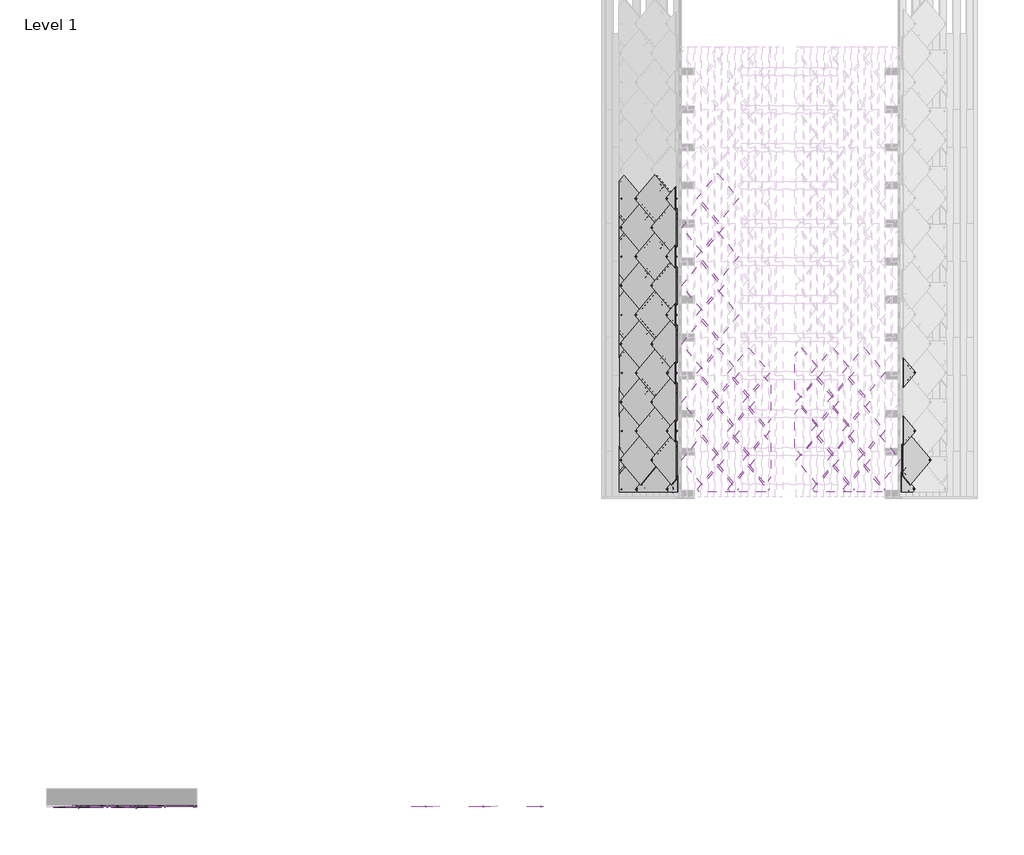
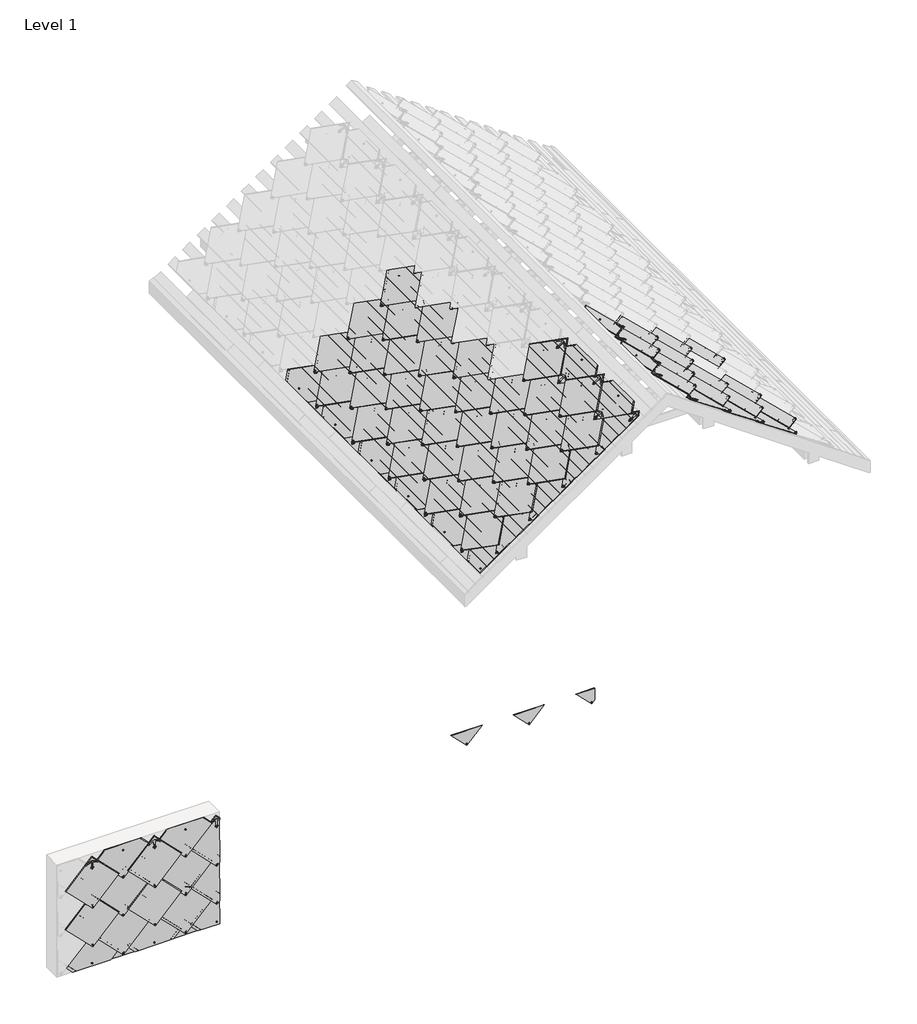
# One storey, part 4 of 6: 88 proxies.
"""IFC4 building model written with IfcOpenShell, lengths in millimetres."""

from ifc_helpers import new_model, si_unit, origin, place, context, project, spatial, transform, mapped, element, save
from components import generic_models_2e27a9fd, corner_bottom_big_right_black_b907a22d, corner_top_small_right_black_2f2f0a71, roofing_panels_sunstyle_tile_non_pv_shingle_non_pv_shingle_be952c39, roofing_panels_sunstyle_tile_shingle_bottom_shingle_bottom_4eb983e8, roofing_panels_sunstyle_tile_shingle_bottom_small_shingle_761d3557, roofing_panels_sunstyle_tile_shingle_left_shingle_left_black_59aad734, roofing_panels_sunstyle_tile_shingle_right_shingle_right_37b1760f, roofing_panels_sunstyle_tile_shingle_top_shingle_top_black_4c6098d4, roofing_panels_sunstyle_tile_shingle_top_small_shingle_top_a40e7fca

model = new_model("IFC4")

# Units and contexts
model_context = context("Model", 3, world=origin())
ifc_project = project(units=[si_unit("LENGTHUNIT", "METRE", prefix="MILLI")], contexts=[model_context])

# Site, building, storey
site = spatial("IfcSite", under=ifc_project)
building = spatial("IfcBuilding", under=site)
storey = spatial("IfcBuildingStorey", under=building, Name="Level 1", Elevation=0.0)

# Proxies
placement = place(None, origin())
generic_models_shape = generic_models_2e27a9fd(model_context)
element("IfcBuildingElementProxy", 1, Name="Roofing_Solar-Panels_SunStyle_Shingle-Sunstyle : Shingle-Sunstyle - Terracotta", ObjectType="Roofing_Solar-Panels_SunStyle_Shingle-Sunstyle : Shingle-Sunstyle - Terracotta", at=placement, inside=storey, context=model_context, shape_type="MappedRepresentation", body=[
    mapped(generic_models_shape, transform((-13697.4435668, -13191.8736519, 1971.6947998), x_axis=(1.0, 0.0, 0.0), y_axis=(0.0, 0.0, 1.0), z_axis=(0.0, -1.0, 0.0))),
])
element("IfcBuildingElementProxy", 2, Name="Roofing_Solar-Panels_SunStyle_Shingle-Sunstyle : Shingle-Sunstyle - Terracotta", ObjectType="Roofing_Solar-Panels_SunStyle_Shingle-Sunstyle : Shingle-Sunstyle - Terracotta", at=placement, inside=storey, context=model_context, shape_type="MappedRepresentation", body=[
    mapped(generic_models_shape, transform((-13697.4435668, -13191.8736519, 1183.6308768), x_axis=(1.0, 0.0, 0.0), y_axis=(0.0, 0.0, 1.0), z_axis=(0.0, -1.0, 0.0))),
])
element("IfcBuildingElementProxy", 3, Name="Roofing_Solar-Panels_SunStyle_Shingle-Sunstyle : Shingle-Sunstyle - Terracotta", ObjectType="Roofing_Solar-Panels_SunStyle_Shingle-Sunstyle : Shingle-Sunstyle - Terracotta", at=placement, inside=storey, context=model_context, shape_type="MappedRepresentation", body=[
    mapped(generic_models_shape, transform((-12481.0100679, -13191.8736519, 1971.6947998), x_axis=(1.0, 0.0, 0.0), y_axis=(0.0, 0.0, 1.0), z_axis=(0.0, -1.0, 0.0))),
])
element("IfcBuildingElementProxy", 4, Name="Roofing_Solar-Panels_SunStyle_Shingle-Sunstyle : Shingle-Sunstyle - Terracotta", ObjectType="Roofing_Solar-Panels_SunStyle_Shingle-Sunstyle : Shingle-Sunstyle - Terracotta", at=placement, inside=storey, context=model_context, shape_type="MappedRepresentation", body=[
    mapped(generic_models_shape, transform((-12481.0100679, -13191.8736519, 1183.6308768), x_axis=(1.0, 0.0, 0.0), y_axis=(0.0, 0.0, 1.0), z_axis=(0.0, -1.0, 0.0))),
])
element("IfcBuildingElementProxy", 5, Name="Roofing_Solar-Panels_SunStyle_Shingle-Sunstyle : Shingle Sunstyle - Black", ObjectType="Roofing_Solar-Panels_SunStyle_Shingle-Sunstyle : Shingle Sunstyle - Black", at=placement, inside=storey, context=model_context, shape_type="MappedRepresentation", body=[
    mapped(generic_models_shape, transform((-1529.2960699, -418.1748305, 874.4455999), x_axis=(0.0, -1.0, 0.0), y_axis=(0.8191520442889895, 0.0, 0.5735764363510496), z_axis=(-0.5735764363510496, 0.0, 0.8191520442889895))),
])
element("IfcBuildingElementProxy", 6, Name="Roofing_Solar-Panels_SunStyle_Shingle-Sunstyle : Shingle Sunstyle - Black", ObjectType="Roofing_Solar-Panels_SunStyle_Shingle-Sunstyle : Shingle Sunstyle - Black", at=placement, inside=storey, context=model_context, shape_type="MappedRepresentation", body=[
    mapped(generic_models_shape, transform((-1529.8736389, -1641.9983463, 874.0411817), x_axis=(0.0, -1.0, 0.0), y_axis=(0.8191520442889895, 0.0, 0.5735764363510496), z_axis=(-0.5735764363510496, 0.0, 0.8191520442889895))),
])
element("IfcBuildingElementProxy", 7, Name="Roofing_Solar-Panels_SunStyle_Shingle-Sunstyle : Shingle Sunstyle - Black", ObjectType="Roofing_Solar-Panels_SunStyle_Shingle-Sunstyle : Shingle Sunstyle - Black", at=placement, inside=storey, context=model_context, shape_type="MappedRepresentation", body=[
    mapped(generic_models_shape, transform((-1529.4272992, -2865.863052, 874.3537121), x_axis=(0.0, -1.0, 0.0), y_axis=(0.8191520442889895, 0.0, 0.5735764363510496), z_axis=(-0.5735764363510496, 0.0, 0.8191520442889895))),
])
element("IfcBuildingElementProxy", 8, Name="Roofing_Solar-Panels_SunStyle_Shingle-Sunstyle : Shingle Sunstyle - Black", ObjectType="Roofing_Solar-Panels_SunStyle_Shingle-Sunstyle : Shingle Sunstyle - Black", at=placement, inside=storey, context=model_context, shape_type="MappedRepresentation", body=[
    mapped(generic_models_shape, transform((-1521.9088606, -4089.4460261, 879.6181795), x_axis=(0.0, -1.0, 0.0), y_axis=(0.8191520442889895, 0.0, 0.5735764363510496), z_axis=(-0.5735764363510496, 0.0, 0.8191520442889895))),
])
element("IfcBuildingElementProxy", 9, Name="Roofing_Solar-Panels_SunStyle_Shingle-Sunstyle : Shingle Sunstyle - Black", ObjectType="Roofing_Solar-Panels_SunStyle_Shingle-Sunstyle : Shingle Sunstyle - Black", at=placement, inside=storey, context=model_context, shape_type="MappedRepresentation", body=[
    mapped(generic_models_shape, transform((-1521.3467397, -5313.6693141, 880.0117808), x_axis=(0.0, -1.0, 0.0), y_axis=(0.8191520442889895, 0.0, 0.5735764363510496), z_axis=(-0.5735764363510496, 0.0, 0.8191520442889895))),
])
element("IfcBuildingElementProxy", 10, Name="Roofing_Solar-Panels_SunStyle_Shingle-Sunstyle : Shingle Sunstyle - Black", ObjectType="Roofing_Solar-Panels_SunStyle_Shingle-Sunstyle : Shingle Sunstyle - Black", at=placement, inside=storey, context=model_context, shape_type="MappedRepresentation", body=[
    mapped(generic_models_shape, transform((-1198.0000985, -1029.5638775, 1106.4215364), x_axis=(0.0, -1.0, 0.0), y_axis=(0.8191520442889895, 0.0, 0.5735764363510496), z_axis=(-0.5735764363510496, 0.0, 0.8191520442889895))),
])
element("IfcBuildingElementProxy", 11, Name="Roofing_Solar-Panels_SunStyle_Shingle-Sunstyle : Shingle Sunstyle - Black", ObjectType="Roofing_Solar-Panels_SunStyle_Shingle-Sunstyle : Shingle Sunstyle - Black", at=placement, inside=storey, context=model_context, shape_type="MappedRepresentation", body=[
    mapped(generic_models_shape, transform((-1846.2380393, -1029.4212826, 652.5204437), x_axis=(0.0, -1.0, 0.0), y_axis=(0.8191520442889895, 0.0, 0.5735764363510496), z_axis=(-0.5735764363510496, 0.0, 0.8191520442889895))),
])
element("IfcBuildingElementProxy", 12, Name="Roofing_Solar-Panels_SunStyle_Shingle-Sunstyle : Shingle Sunstyle - Black", ObjectType="Roofing_Solar-Panels_SunStyle_Shingle-Sunstyle : Shingle Sunstyle - Black", at=placement, inside=storey, context=model_context, shape_type="MappedRepresentation", body=[
    mapped(generic_models_shape, transform((-1198.2061962, -2251.767161, 1106.2772253), x_axis=(0.0, -1.0, 0.0), y_axis=(0.8191520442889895, 0.0, 0.5735764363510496), z_axis=(-0.5735764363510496, 0.0, 0.8191520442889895))),
])
element("IfcBuildingElementProxy", 13, Name="Roofing_Solar-Panels_SunStyle_Shingle-Sunstyle : Shingle Sunstyle - Black", ObjectType="Roofing_Solar-Panels_SunStyle_Shingle-Sunstyle : Shingle Sunstyle - Black", at=placement, inside=storey, context=model_context, shape_type="MappedRepresentation", body=[
    mapped(generic_models_shape, transform((-1845.6262967, -2251.7273402, 652.9487905), x_axis=(0.0, -1.0, 0.0), y_axis=(0.8191520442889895, 0.0, 0.5735764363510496), z_axis=(-0.5735764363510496, 0.0, 0.8191520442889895))),
])
element("IfcBuildingElementProxy", 14, Name="Roofing_Solar-Panels_SunStyle_Shingle-Sunstyle : Shingle Sunstyle - Black", ObjectType="Roofing_Solar-Panels_SunStyle_Shingle-Sunstyle : Shingle Sunstyle - Black", at=placement, inside=storey, context=model_context, shape_type="MappedRepresentation", body=[
    mapped(generic_models_shape, transform((-1845.4452292, -3477.1191, 653.0755753), x_axis=(0.0, -1.0, 0.0), y_axis=(0.8191520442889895, 0.0, 0.5735764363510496), z_axis=(-0.5735764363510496, 0.0, 0.8191520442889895))),
])
element("IfcBuildingElementProxy", 15, Name="Roofing_Solar-Panels_SunStyle_Shingle-Sunstyle : Shingle Sunstyle - Black", ObjectType="Roofing_Solar-Panels_SunStyle_Shingle-Sunstyle : Shingle Sunstyle - Black", at=placement, inside=storey, context=model_context, shape_type="MappedRepresentation", body=[
    mapped(generic_models_shape, transform((-1845.5084417, -4699.1062728, 653.0313135), x_axis=(0.0, -1.0, 0.0), y_axis=(0.8191520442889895, 0.0, 0.5735764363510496), z_axis=(-0.5735764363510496, 0.0, 0.8191520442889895))),
])
element("IfcBuildingElementProxy", 16, Name="Roofing_Solar-Panels_SunStyle_Shingle-Sunstyle : Shingle Sunstyle - Black", ObjectType="Roofing_Solar-Panels_SunStyle_Shingle-Sunstyle : Shingle Sunstyle - Black", at=placement, inside=storey, context=model_context, shape_type="MappedRepresentation", body=[
    mapped(generic_models_shape, transform((-1198.9706747, -5924.8267716, 1105.7419317), x_axis=(0.0, -1.0, 0.0), y_axis=(0.8191520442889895, 0.0, 0.5735764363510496), z_axis=(-0.5735764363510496, 0.0, 0.8191520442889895))),
])
element("IfcBuildingElementProxy", 17, Name="Roofing_Solar-Panels_SunStyle_Shingle-Sunstyle : Shingle Sunstyle - Black", ObjectType="Roofing_Solar-Panels_SunStyle_Shingle-Sunstyle : Shingle Sunstyle - Black", at=placement, inside=storey, context=model_context, shape_type="MappedRepresentation", body=[
    mapped(generic_models_shape, transform((-1846.4592623, -5924.8244109, 652.3655417), x_axis=(0.0, -1.0, 0.0), y_axis=(0.8191520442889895, 0.0, 0.5735764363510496), z_axis=(-0.5735764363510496, 0.0, 0.8191520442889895))),
])
element("IfcBuildingElementProxy", 18, Name="Roofing_Solar-Panels_SunStyle_Shingle-Sunstyle : Shingle Sunstyle - Black", ObjectType="Roofing_Solar-Panels_SunStyle_Shingle-Sunstyle : Shingle Sunstyle - Black", at=placement, inside=storey, context=model_context, shape_type="MappedRepresentation", body=[
    mapped(generic_models_shape, transform((-550.5037641, -1029.6315158, 1559.8033508), x_axis=(0.0, -1.0, 0.0), y_axis=(0.8191520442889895, 0.0, 0.5735764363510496), z_axis=(-0.5735764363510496, 0.0, 0.8191520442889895))),
])
element("IfcBuildingElementProxy", 19, Name="Roofing_Solar-Panels_SunStyle_Shingle-Sunstyle : Shingle Sunstyle - Black", ObjectType="Roofing_Solar-Panels_SunStyle_Shingle-Sunstyle : Shingle Sunstyle - Black", at=placement, inside=storey, context=model_context, shape_type="MappedRepresentation", body=[
    mapped(generic_models_shape, transform((-233.2913651, -1641.4885311, 1781.9178637), x_axis=(0.0, -1.0, 0.0), y_axis=(0.8191520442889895, 0.0, 0.5735764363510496), z_axis=(-0.5735764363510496, 0.0, 0.8191520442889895))),
])
element("IfcBuildingElementProxy", 20, Name="Roofing_Solar-Panels_SunStyle_Shingle-Sunstyle : Shingle Sunstyle - Black", ObjectType="Roofing_Solar-Panels_SunStyle_Shingle-Sunstyle : Shingle Sunstyle - Black", at=placement, inside=storey, context=model_context, shape_type="MappedRepresentation", body=[
    mapped(generic_models_shape, transform((-550.4746617, -2251.5930338, 1559.8237285), x_axis=(0.0, -1.0, 0.0), y_axis=(0.8191520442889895, 0.0, 0.5735764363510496), z_axis=(-0.5735764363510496, 0.0, 0.8191520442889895))),
])
element("IfcBuildingElementProxy", 21, Name="Roofing_Solar-Panels_SunStyle_Shingle-Sunstyle : Shingle Sunstyle - Black", ObjectType="Roofing_Solar-Panels_SunStyle_Shingle-Sunstyle : Shingle Sunstyle - Black", at=placement, inside=storey, context=model_context, shape_type="MappedRepresentation", body=[
    mapped(generic_models_shape, transform((-550.445844, -3477.1656921, 1559.8439068), x_axis=(0.0, -1.0, 0.0), y_axis=(0.8191520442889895, 0.0, 0.5735764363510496), z_axis=(-0.5735764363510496, 0.0, 0.8191520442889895))),
])
element("IfcBuildingElementProxy", 22, Name="Roofing_Solar-Panels_SunStyle_Shingle-Sunstyle : Shingle Sunstyle - Black", ObjectType="Roofing_Solar-Panels_SunStyle_Shingle-Sunstyle : Shingle Sunstyle - Black", at=placement, inside=storey, context=model_context, shape_type="MappedRepresentation", body=[
    mapped(generic_models_shape, transform((420.5825571, -4089.4679623, 2239.7653131), x_axis=(0.0, -1.0, 0.0), y_axis=(0.8191520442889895, 0.0, 0.5735764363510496), z_axis=(-0.5735764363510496, 0.0, 0.8191520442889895))),
])
element("IfcBuildingElementProxy", 23, Name="Roofing_Solar-Panels_SunStyle_Shingle-Sunstyle : Shingle Sunstyle - Black", ObjectType="Roofing_Solar-Panels_SunStyle_Shingle-Sunstyle : Shingle Sunstyle - Black", at=placement, inside=storey, context=model_context, shape_type="MappedRepresentation", body=[
    mapped(generic_models_shape, transform((97.0115308, -4698.90683, 2013.1984414), x_axis=(0.0, -1.0, 0.0), y_axis=(0.8191520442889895, 0.0, 0.5735764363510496), z_axis=(-0.5735764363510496, 0.0, 0.8191520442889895))),
])
element("IfcBuildingElementProxy", 24, Name="Roofing_Solar-Panels_SunStyle_Shingle-Sunstyle : Shingle Sunstyle - Black", ObjectType="Roofing_Solar-Panels_SunStyle_Shingle-Sunstyle : Shingle Sunstyle - Black", at=placement, inside=storey, context=model_context, shape_type="MappedRepresentation", body=[
    mapped(generic_models_shape, transform((-226.9133761, -4089.440371, 1786.3837797), x_axis=(0.0, -1.0, 0.0), y_axis=(0.8191520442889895, 0.0, 0.5735764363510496), z_axis=(-0.5735764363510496, 0.0, 0.8191520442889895))),
])
element("IfcBuildingElementProxy", 25, Name="Roofing_Solar-Panels_SunStyle_Shingle-Sunstyle : Shingle Sunstyle - Black", ObjectType="Roofing_Solar-Panels_SunStyle_Shingle-Sunstyle : Shingle Sunstyle - Black", at=placement, inside=storey, context=model_context, shape_type="MappedRepresentation", body=[
    mapped(generic_models_shape, transform((-550.4746617, -4699.0830974, 1559.8237285), x_axis=(0.0, -1.0, 0.0), y_axis=(0.8191520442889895, 0.0, 0.5735764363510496), z_axis=(-0.5735764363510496, 0.0, 0.8191520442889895))),
])
element("IfcBuildingElementProxy", 26, Name="Roofing_Solar-Panels_SunStyle_Shingle-Sunstyle : Shingle Sunstyle - Black", ObjectType="Roofing_Solar-Panels_SunStyle_Shingle-Sunstyle : Shingle Sunstyle - Black", at=placement, inside=storey, context=model_context, shape_type="MappedRepresentation", body=[
    mapped(generic_models_shape, transform((96.4180975, -5924.6450947, 2012.7829149), x_axis=(0.0, -1.0, 0.0), y_axis=(0.8191520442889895, 0.0, 0.5735764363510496), z_axis=(-0.5735764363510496, 0.0, 0.8191520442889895))),
])
element("IfcBuildingElementProxy", 27, Name="Roofing_Solar-Panels_SunStyle_Shingle-Sunstyle : Shingle Sunstyle - Black", ObjectType="Roofing_Solar-Panels_SunStyle_Shingle-Sunstyle : Shingle Sunstyle - Black", at=placement, inside=storey, context=model_context, shape_type="MappedRepresentation", body=[
    mapped(generic_models_shape, transform((-551.1002339, -5924.700808, 1559.3856981), x_axis=(0.0, -1.0, 0.0), y_axis=(0.8191520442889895, 0.0, 0.5735764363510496), z_axis=(-0.5735764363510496, 0.0, 0.8191520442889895))),
])
element("IfcBuildingElementProxy", 28, Name="Roofing_Solar-Panels_SunStyle_Shingle-Sunstyle : Shingle Sunstyle - Black", ObjectType="Roofing_Solar-Panels_SunStyle_Shingle-Sunstyle : Shingle Sunstyle - Black", at=placement, inside=storey, context=model_context, shape_type="MappedRepresentation", body=[
    mapped(generic_models_shape, transform((-233.2913651, -417.953294, 1781.9178637), x_axis=(0.0, -1.0, 0.0), y_axis=(0.8191520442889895, 0.0, 0.5735764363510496), z_axis=(-0.5735764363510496, 0.0, 0.8191520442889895))),
])
element("IfcBuildingElementProxy", 29, Name="Roofing_Solar-Panels_SunStyle_Shingle-Sunstyle : Shingle Sunstyle - Black", ObjectType="Roofing_Solar-Panels_SunStyle_Shingle-Sunstyle : Shingle Sunstyle - Black", at=placement, inside=storey, context=model_context, shape_type="MappedRepresentation", body=[
    mapped(generic_models_shape, transform((-233.2913651, -2865.4433575, 1781.9178637), x_axis=(0.0, -1.0, 0.0), y_axis=(0.8191520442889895, 0.0, 0.5735764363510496), z_axis=(-0.5735764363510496, 0.0, 0.8191520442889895))),
])
element("IfcBuildingElementProxy", 30, Name="Roofing_Solar-Panels_SunStyle_Shingle-Sunstyle : Shingle Sunstyle - Black", ObjectType="Roofing_Solar-Panels_SunStyle_Shingle-Sunstyle : Shingle Sunstyle - Black", at=placement, inside=storey, context=model_context, shape_type="MappedRepresentation", body=[
    mapped(generic_models_shape, transform((421.8283831, -5313.6729004, 2240.6376499), x_axis=(0.0, -1.0, 0.0), y_axis=(0.8191520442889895, 0.0, 0.5735764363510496), z_axis=(-0.5735764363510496, 0.0, 0.8191520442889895))),
])
element("IfcBuildingElementProxy", 31, Name="Roofing_Solar-Panels_SunStyle_Shingle-Sunstyle : Shingle Sunstyle - Black", ObjectType="Roofing_Solar-Panels_SunStyle_Shingle-Sunstyle : Shingle Sunstyle - Black", at=placement, inside=storey, context=model_context, shape_type="MappedRepresentation", body=[
    mapped(generic_models_shape, transform((-225.6416591, -5313.6402903, 1787.2742455), x_axis=(0.0, -1.0, 0.0), y_axis=(0.8191520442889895, 0.0, 0.5735764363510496), z_axis=(-0.5735764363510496, 0.0, 0.8191520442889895))),
])
element("IfcBuildingElementProxy", 32, Name="Roofing_Solar-Panels_SunStyle_Shingle-Sunstyle : Shingle Sunstyle - Black", ObjectType="Roofing_Solar-Panels_SunStyle_Shingle-Sunstyle : Shingle Sunstyle - Black", at=placement, inside=storey, context=model_context, shape_type="MappedRepresentation", body=[
    mapped(generic_models_shape, transform((-880.8842482, -418.1745414, 1328.4684453), x_axis=(0.0, -1.0, 0.0), y_axis=(0.8191520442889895, 0.0, 0.5735764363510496), z_axis=(-0.5735764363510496, 0.0, 0.8191520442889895))),
])
element("IfcBuildingElementProxy", 33, Name="Roofing_Solar-Panels_SunStyle_Shingle-Sunstyle : Shingle Sunstyle - Black", ObjectType="Roofing_Solar-Panels_SunStyle_Shingle-Sunstyle : Shingle Sunstyle - Black", at=placement, inside=storey, context=model_context, shape_type="MappedRepresentation", body=[
    mapped(generic_models_shape, transform((-881.9395691, -1641.9980572, 1327.7295017), x_axis=(0.0, -1.0, 0.0), y_axis=(0.8191520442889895, 0.0, 0.5735764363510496), z_axis=(-0.5735764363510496, 0.0, 0.8191520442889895))),
])
element("IfcBuildingElementProxy", 34, Name="Roofing_Solar-Panels_SunStyle_Shingle-Sunstyle : Shingle Sunstyle - Black", ObjectType="Roofing_Solar-Panels_SunStyle_Shingle-Sunstyle : Shingle Sunstyle - Black", at=placement, inside=storey, context=model_context, shape_type="MappedRepresentation", body=[
    mapped(generic_models_shape, transform((-881.9395691, -2865.8627629, 1327.7295017), x_axis=(0.0, -1.0, 0.0), y_axis=(0.8191520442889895, 0.0, 0.5735764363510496), z_axis=(-0.5735764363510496, 0.0, 0.8191520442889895))),
])
element("IfcBuildingElementProxy", 35, Name="Roofing_Solar-Panels_SunStyle_Shingle-Sunstyle : Shingle Sunstyle - Black", ObjectType="Roofing_Solar-Panels_SunStyle_Shingle-Sunstyle : Shingle Sunstyle - Black", at=placement, inside=storey, context=model_context, shape_type="MappedRepresentation", body=[
    mapped(generic_models_shape, transform((-1197.9714517, -3477.1495038, 1106.4415951), x_axis=(0.0, -1.0, 0.0), y_axis=(0.8191520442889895, 0.0, 0.5735764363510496), z_axis=(-0.5735764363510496, 0.0, 0.8191520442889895))),
])
element("IfcBuildingElementProxy", 36, Name="Roofing_Solar-Panels_SunStyle_Shingle-Sunstyle : Shingle Sunstyle - Black", ObjectType="Roofing_Solar-Panels_SunStyle_Shingle-Sunstyle : Shingle Sunstyle - Black", at=placement, inside=storey, context=model_context, shape_type="MappedRepresentation", body=[
    mapped(generic_models_shape, transform((-874.4064371, -4089.4318824, 1333.0042575), x_axis=(0.0, -1.0, 0.0), y_axis=(0.8191520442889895, 0.0, 0.5735764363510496), z_axis=(-0.5735764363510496, 0.0, 0.8191520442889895))),
])
element("IfcBuildingElementProxy", 37, Name="Roofing_Solar-Panels_SunStyle_Shingle-Sunstyle : Shingle Sunstyle - Black", ObjectType="Roofing_Solar-Panels_SunStyle_Shingle-Sunstyle : Shingle Sunstyle - Black", at=placement, inside=storey, context=model_context, shape_type="MappedRepresentation", body=[
    mapped(generic_models_shape, transform((-1197.961427, -4699.0830645, 1106.4486145), x_axis=(0.0, -1.0, 0.0), y_axis=(0.8191520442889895, 0.0, 0.5735764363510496), z_axis=(-0.5735764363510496, 0.0, 0.8191520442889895))),
])
element("IfcBuildingElementProxy", 38, Name="Roofing_Solar-Panels_SunStyle_Shingle-Sunstyle : Shingle Sunstyle - Black", ObjectType="Roofing_Solar-Panels_SunStyle_Shingle-Sunstyle : Shingle Sunstyle - Black", at=placement, inside=storey, context=model_context, shape_type="MappedRepresentation", body=[
    mapped(generic_models_shape, transform((-873.7480486, -5313.669025, 1333.465266), x_axis=(0.0, -1.0, 0.0), y_axis=(0.8191520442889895, 0.0, 0.5735764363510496), z_axis=(-0.5735764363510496, 0.0, 0.8191520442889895))),
])
element("IfcBuildingElementProxy", 39, Name="Roofing_Solar-Panels_SunStyle_Shingle-Sunstyle : Shingle Sunstyle - Black", ObjectType="Roofing_Solar-Panels_SunStyle_Shingle-Sunstyle : Shingle Sunstyle - Black", at=placement, inside=storey, context=model_context, shape_type="MappedRepresentation", body=[
    mapped(generic_models_shape, transform((3456.4537913, -4083.3530228, 1295.5334931), x_axis=(0.0, 1.0, 0.0), y_axis=(-0.8191520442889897, 0.0, 0.5735764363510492), z_axis=(0.5735764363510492, 0.0, 0.8191520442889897))),
])
element("IfcBuildingElementProxy", 40, Name="Roofing_Solar-Panels_SunStyle_Shingle-Sunstyle : Shingle Sunstyle - Black", ObjectType="Roofing_Solar-Panels_SunStyle_Shingle-Sunstyle : Shingle Sunstyle - Black", at=placement, inside=storey, context=model_context, shape_type="MappedRepresentation", body=[
    mapped(generic_models_shape, transform((2812.5194528, -4080.1566544, 1746.421171), x_axis=(0.0, 1.0, 0.0), y_axis=(-0.8191520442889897, 0.0, 0.5735764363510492), z_axis=(0.5735764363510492, 0.0, 0.8191520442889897))),
])
element("IfcBuildingElementProxy", 41, Name="Roofing_Solar-Panels_SunStyle_Shingle-Sunstyle : Shingle Sunstyle - Black", ObjectType="Roofing_Solar-Panels_SunStyle_Shingle-Sunstyle : Shingle Sunstyle - Black", at=placement, inside=storey, context=model_context, shape_type="MappedRepresentation", body=[
    mapped(generic_models_shape, transform((2152.6525765, -4081.6435771, 2208.464932), x_axis=(0.0, 1.0, 0.0), y_axis=(-0.8191520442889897, 0.0, 0.5735764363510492), z_axis=(0.5735764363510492, 0.0, 0.8191520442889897))),
])
element("IfcBuildingElementProxy", 42, Name="Roofing_Solar-Panels_SunStyle_Shingle-Sunstyle : Shingle Sunstyle - Black", ObjectType="Roofing_Solar-Panels_SunStyle_Shingle-Sunstyle : Shingle Sunstyle - Black", at=placement, inside=storey, context=model_context, shape_type="MappedRepresentation", body=[
    mapped(generic_models_shape, transform((2490.4193004, -4692.2929006, 1971.9581258), x_axis=(0.0, 1.0, 0.0), y_axis=(-0.8191520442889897, 0.0, 0.5735764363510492), z_axis=(0.5735764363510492, 0.0, 0.8191520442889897))),
])
element("IfcBuildingElementProxy", 43, Name="Roofing_Solar-Panels_SunStyle_Shingle-Sunstyle : Shingle Sunstyle - Black", ObjectType="Roofing_Solar-Panels_SunStyle_Shingle-Sunstyle : Shingle Sunstyle - Black", at=placement, inside=storey, context=model_context, shape_type="MappedRepresentation", body=[
    mapped(generic_models_shape, transform((1831.7362128, -4691.7540317, 2433.1729891), x_axis=(0.0, 1.0, 0.0), y_axis=(-0.8191520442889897, 0.0, 0.5735764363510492), z_axis=(0.5735764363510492, 0.0, 0.8191520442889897))),
])
element("IfcBuildingElementProxy", 44, Name="Roofing_Solar-Panels_SunStyle_Shingle-Sunstyle : Shingle Sunstyle - Black", ObjectType="Roofing_Solar-Panels_SunStyle_Shingle-Sunstyle : Shingle Sunstyle - Black", at=placement, inside=storey, context=model_context, shape_type="MappedRepresentation", body=[
    mapped(generic_models_shape, transform((3456.4537913, -5307.0163752, 1295.5334931), x_axis=(0.0, 1.0, 0.0), y_axis=(-0.8191520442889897, 0.0, 0.5735764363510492), z_axis=(0.5735764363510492, 0.0, 0.8191520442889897))),
])
element("IfcBuildingElementProxy", 45, Name="Roofing_Solar-Panels_SunStyle_Shingle-Sunstyle : Shingle Sunstyle - Black", ObjectType="Roofing_Solar-Panels_SunStyle_Shingle-Sunstyle : Shingle Sunstyle - Black", at=placement, inside=storey, context=model_context, shape_type="MappedRepresentation", body=[
    mapped(generic_models_shape, transform((2812.5194528, -5303.8200068, 1746.421171), x_axis=(0.0, 1.0, 0.0), y_axis=(-0.8191520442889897, 0.0, 0.5735764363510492), z_axis=(0.5735764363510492, 0.0, 0.8191520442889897))),
])
element("IfcBuildingElementProxy", 46, Name="Roofing_Solar-Panels_SunStyle_Shingle-Sunstyle : Shingle Sunstyle - Black", ObjectType="Roofing_Solar-Panels_SunStyle_Shingle-Sunstyle : Shingle Sunstyle - Black", at=placement, inside=storey, context=model_context, shape_type="MappedRepresentation", body=[
    mapped(generic_models_shape, transform((2152.6525765, -5305.3069296, 2208.464932), x_axis=(0.0, 1.0, 0.0), y_axis=(-0.8191520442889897, 0.0, 0.5735764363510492), z_axis=(0.5735764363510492, 0.0, 0.8191520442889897))),
])
element("IfcBuildingElementProxy", 47, Name="Roofing_Solar-Panels_SunStyle_Shingle-Sunstyle : Shingle Sunstyle - Black", ObjectType="Roofing_Solar-Panels_SunStyle_Shingle-Sunstyle : Shingle Sunstyle - Black", at=placement, inside=storey, context=model_context, shape_type="MappedRepresentation", body=[
    mapped(generic_models_shape, transform((3778.0193653, -5922.1340052, 1070.3708542), x_axis=(0.0, 1.0, 0.0), y_axis=(-0.8191520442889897, 0.0, 0.5735764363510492), z_axis=(0.5735764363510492, 0.0, 0.8191520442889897))),
])
element("IfcBuildingElementProxy", 48, Name="Roofing_Solar-Panels_SunStyle_Shingle-Sunstyle : Shingle Sunstyle - Black", ObjectType="Roofing_Solar-Panels_SunStyle_Shingle-Sunstyle : Shingle Sunstyle - Black", at=placement, inside=storey, context=model_context, shape_type="MappedRepresentation", body=[
    mapped(generic_models_shape, transform((3134.2669178, -5920.2454793, 1521.1311707), x_axis=(0.0, 1.0, 0.0), y_axis=(-0.8191520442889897, 0.0, 0.5735764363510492), z_axis=(0.5735764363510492, 0.0, 0.8191520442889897))),
])
element("IfcBuildingElementProxy", 49, Name="Roofing_Solar-Panels_SunStyle_Shingle-Sunstyle : Shingle Sunstyle - Black", ObjectType="Roofing_Solar-Panels_SunStyle_Shingle-Sunstyle : Shingle Sunstyle - Black", at=placement, inside=storey, context=model_context, shape_type="MappedRepresentation", body=[
    mapped(generic_models_shape, transform((2490.4193004, -5917.2929006, 1971.9581258), x_axis=(0.0, 1.0, 0.0), y_axis=(-0.8191520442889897, 0.0, 0.5735764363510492), z_axis=(0.5735764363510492, 0.0, 0.8191520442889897))),
])
element("IfcBuildingElementProxy", 50, Name="Roofing_Solar-Panels_SunStyle_Shingle-Sunstyle : Shingle Sunstyle - Black", ObjectType="Roofing_Solar-Panels_SunStyle_Shingle-Sunstyle : Shingle Sunstyle - Black", at=placement, inside=storey, context=model_context, shape_type="MappedRepresentation", body=[
    mapped(generic_models_shape, transform((1831.7362128, -5916.7540317, 2433.1729891), x_axis=(0.0, 1.0, 0.0), y_axis=(-0.8191520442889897, 0.0, 0.5735764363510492), z_axis=(0.5735764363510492, 0.0, 0.8191520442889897))),
])
corner_bottom_big_right_black_shape = corner_bottom_big_right_black_b907a22d(model_context)
element("IfcBuildingElementProxy", 51, Name="Roofing_Panels_SunStyle_Tile_Corner-Bottom-Big-Right : Corner Bottom Big Right - Black", ObjectType="Roofing_Panels_SunStyle_Tile_Corner-Bottom-Big-Right : Corner Bottom Big Right - Black", at=placement, inside=storey, context=model_context, shape_type="MappedRepresentation", body=[
    mapped(corner_bottom_big_right_black_shape, transform((-2253.7316504, -6536.933869, 367.1903455), x_axis=(0.0, -1.0, 0.0), y_axis=(0.8191520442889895, 0.0, 0.5735764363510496), z_axis=(-0.5735764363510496, 0.0, 0.8191520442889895))),
])
element("IfcBuildingElementProxy", 52, Name="Roofing_Panels_SunStyle_Tile_Corner-Bottom-Big-Right : Corner Bottom Big Right - Terracotta", ObjectType="Roofing_Panels_SunStyle_Tile_Corner-Bottom-Big-Right : Corner Bottom Big Right - Terracotta", at=placement, inside=storey, context=model_context, shape_type="MappedRepresentation", body=[
    mapped(corner_bottom_big_right_black_shape, transform((-11266.6934241, -13191.8736519, 309.446669), x_axis=(1.0, 0.0, 0.0), y_axis=(0.0, 0.0, 1.0), z_axis=(0.0, -1.0, 0.0))),
])
corner_top_small_right_black_shape = corner_top_small_right_black_2f2f0a71(model_context)
element("IfcBuildingElementProxy", 53, Name="Roofing_Panels_SunStyle_Tile_Corner-Top-Small-Right : Corner Top Small Right - Terracotta", ObjectType="Roofing_Panels_SunStyle_Tile_Corner-Top-Small-Right : Corner Top Small Right - Terracotta", at=placement, inside=storey, context=model_context, shape_type="MappedRepresentation", body=[
    mapped(corner_top_small_right_black_shape, transform((-3964.9338123, -13191.8736519, 2851.127352), x_axis=(1.0, 0.0, 0.0), y_axis=(0.0, 0.0, 1.0), z_axis=(0.0, -1.0, 0.0))),
])
roofing_panels_sunstyle_tile_non_pv_shingle_non_pv_shingle_shape = roofing_panels_sunstyle_tile_non_pv_shingle_non_pv_shingle_be952c39(model_context)
element("IfcBuildingElementProxy", 54, Name="Roofing_Panels_SunStyle_Tile_Non-PV-Shingle : Non PV Shingle - Terracotta", ObjectType="Roofing_Panels_SunStyle_Tile_Non-PV-Shingle : Non PV Shingle - Terracotta", at=placement, inside=storey, context=model_context, shape_type="MappedRepresentation", body=[
    mapped(roofing_panels_sunstyle_tile_non_pv_shingle_non_pv_shingle_shape, transform((-13091.5238229, -13191.8736519, 1581.2267543), x_axis=(1.0, 0.0, 0.0), y_axis=(0.0, 0.0, 1.0), z_axis=(0.0, -1.0, 0.0))),
])
element("IfcBuildingElementProxy", 55, Name="Roofing_Panels_SunStyle_Tile_Non-PV-Shingle : Non PV Shingle - Terracotta", ObjectType="Roofing_Panels_SunStyle_Tile_Non-PV-Shingle : Non PV Shingle - Terracotta", at=placement, inside=storey, context=model_context, shape_type="MappedRepresentation", body=[
    mapped(roofing_panels_sunstyle_tile_non_pv_shingle_non_pv_shingle_shape, transform((-13091.5238229, -13191.8736519, 792.8142321), x_axis=(1.0, 0.0, 0.0), y_axis=(0.0, 0.0, 1.0), z_axis=(0.0, -1.0, 0.0))),
])
element("IfcBuildingElementProxy", 56, Name="Roofing_Panels_SunStyle_Tile_Non-PV-Shingle : Non PV Shingle - Terracotta", ObjectType="Roofing_Panels_SunStyle_Tile_Non-PV-Shingle : Non PV Shingle - Terracotta", at=placement, inside=storey, context=model_context, shape_type="MappedRepresentation", body=[
    mapped(roofing_panels_sunstyle_tile_non_pv_shingle_non_pv_shingle_shape, transform((-11875.0903241, -13191.8736519, 1581.2267543), x_axis=(1.0, 0.0, 0.0), y_axis=(0.0, 0.0, 1.0), z_axis=(0.0, -1.0, 0.0))),
])
element("IfcBuildingElementProxy", 57, Name="Roofing_Panels_SunStyle_Tile_Non-PV-Shingle : Non PV Shingle - Terracotta", ObjectType="Roofing_Panels_SunStyle_Tile_Non-PV-Shingle : Non PV Shingle - Terracotta", at=placement, inside=storey, context=model_context, shape_type="MappedRepresentation", body=[
    mapped(roofing_panels_sunstyle_tile_non_pv_shingle_non_pv_shingle_shape, transform((-11875.0903241, -13191.8736519, 792.8142321), x_axis=(1.0, 0.0, 0.0), y_axis=(0.0, 0.0, 1.0), z_axis=(0.0, -1.0, 0.0))),
])
roofing_panels_sunstyle_tile_shingle_bottom_shingle_bottom_shape = roofing_panels_sunstyle_tile_shingle_bottom_shingle_bottom_4eb983e8(model_context)
element("IfcBuildingElementProxy", 58, Name="Roofing_Panels_SunStyle_Tile_Shingle-Bottom : Shingle Bottom - Black", ObjectType="Roofing_Panels_SunStyle_Tile_Shingle-Bottom : Shingle Bottom - Black", at=placement, inside=storey, context=model_context, shape_type="MappedRepresentation", body=[
    mapped(roofing_panels_sunstyle_tile_shingle_bottom_shingle_bottom_shape, transform((-2254.7162062, -418.1748305, 366.5009521), x_axis=(0.0, -1.0, 0.0), y_axis=(0.8191520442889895, 0.0, 0.5735764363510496), z_axis=(-0.5735764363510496, 0.0, 0.8191520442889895))),
])
element("IfcBuildingElementProxy", 59, Name="Roofing_Panels_SunStyle_Tile_Shingle-Bottom : Shingle Bottom - Black", ObjectType="Roofing_Panels_SunStyle_Tile_Shingle-Bottom : Shingle Bottom - Black", at=placement, inside=storey, context=model_context, shape_type="MappedRepresentation", body=[
    mapped(roofing_panels_sunstyle_tile_shingle_bottom_shingle_bottom_shape, transform((-2255.9146597, -1641.9983463, 365.6617859), x_axis=(0.0, -1.0, 0.0), y_axis=(0.8191520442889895, 0.0, 0.5735764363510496), z_axis=(-0.5735764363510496, 0.0, 0.8191520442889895))),
])
element("IfcBuildingElementProxy", 60, Name="Roofing_Panels_SunStyle_Tile_Shingle-Bottom : Shingle Bottom - Black", ObjectType="Roofing_Panels_SunStyle_Tile_Shingle-Bottom : Shingle Bottom - Black", at=placement, inside=storey, context=model_context, shape_type="MappedRepresentation", body=[
    mapped(roofing_panels_sunstyle_tile_shingle_bottom_shingle_bottom_shape, transform((-2254.8016455, -2865.8616998, 366.4411269), x_axis=(0.0, -1.0, 0.0), y_axis=(0.8191520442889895, 0.0, 0.5735764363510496), z_axis=(-0.5735764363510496, 0.0, 0.8191520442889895))),
])
element("IfcBuildingElementProxy", 61, Name="Roofing_Panels_SunStyle_Tile_Shingle-Bottom : Shingle Bottom - Black", ObjectType="Roofing_Panels_SunStyle_Tile_Shingle-Bottom : Shingle Bottom - Black", at=placement, inside=storey, context=model_context, shape_type="MappedRepresentation", body=[
    mapped(roofing_panels_sunstyle_tile_shingle_bottom_shingle_bottom_shape, transform((-2247.2724646, -4089.4660277, 371.713116), x_axis=(0.0, -1.0, 0.0), y_axis=(0.8191520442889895, 0.0, 0.5735764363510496), z_axis=(-0.5735764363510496, 0.0, 0.8191520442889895))),
])
element("IfcBuildingElementProxy", 62, Name="Roofing_Panels_SunStyle_Tile_Shingle-Bottom : Shingle Bottom - Black", ObjectType="Roofing_Panels_SunStyle_Tile_Shingle-Bottom : Shingle Bottom - Black", at=placement, inside=storey, context=model_context, shape_type="MappedRepresentation", body=[
    mapped(roofing_panels_sunstyle_tile_shingle_bottom_shingle_bottom_shape, transform((-2246.7050715, -5313.6004762, 372.110409), x_axis=(0.0, -1.0, 0.0), y_axis=(0.8191520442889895, 0.0, 0.5735764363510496), z_axis=(-0.5735764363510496, 0.0, 0.8191520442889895))),
])
element("IfcBuildingElementProxy", 63, Name="Roofing_Panels_SunStyle_Tile_Shingle-Bottom : Shingle Bottom - Terracotta", ObjectType="Roofing_Panels_SunStyle_Tile_Shingle-Bottom : Shingle Bottom - Terracotta", at=placement, inside=storey, context=model_context, shape_type="MappedRepresentation", body=[
    mapped(roofing_panels_sunstyle_tile_shingle_bottom_shingle_bottom_shape, transform((-13697.4438893, -13191.8736519, 308.3251138), x_axis=(1.0, 0.0, 0.0), y_axis=(0.0, 0.0, 1.0), z_axis=(0.0, -1.0, 0.0))),
])
element("IfcBuildingElementProxy", 64, Name="Roofing_Panels_SunStyle_Tile_Shingle-Bottom : Shingle Bottom - Terracotta", ObjectType="Roofing_Panels_SunStyle_Tile_Shingle-Bottom : Shingle Bottom - Terracotta", at=placement, inside=storey, context=model_context, shape_type="MappedRepresentation", body=[
    mapped(roofing_panels_sunstyle_tile_shingle_bottom_shingle_bottom_shape, transform((-12481.0103905, -13191.8736519, 308.3251138), x_axis=(1.0, 0.0, 0.0), y_axis=(0.0, 0.0, 1.0), z_axis=(0.0, -1.0, 0.0))),
])
roofing_panels_sunstyle_tile_shingle_bottom_small_shingle_shape = roofing_panels_sunstyle_tile_shingle_bottom_small_shingle_761d3557(model_context)
element("IfcBuildingElementProxy", 65, Name="Roofing_Panels_SunStyle_Tile_Shingle-Bottom-Small : Shingle Bottom Small - Black", ObjectType="Roofing_Panels_SunStyle_Tile_Shingle-Bottom-Small : Shingle Bottom Small - Black", at=placement, inside=storey, context=model_context, shape_type="MappedRepresentation", body=[
    mapped(roofing_panels_sunstyle_tile_shingle_bottom_small_shingle_shape, transform((-2583.6916197, -1029.4114604, 136.1498877), x_axis=(0.0, -1.0, 0.0), y_axis=(0.8191520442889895, 0.0, 0.5735764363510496), z_axis=(-0.5735764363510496, 0.0, 0.8191520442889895))),
])
element("IfcBuildingElementProxy", 66, Name="Roofing_Panels_SunStyle_Tile_Shingle-Bottom-Small : Shingle Bottom Small - Black", ObjectType="Roofing_Panels_SunStyle_Tile_Shingle-Bottom-Small : Shingle Bottom Small - Black", at=placement, inside=storey, context=model_context, shape_type="MappedRepresentation", body=[
    mapped(roofing_panels_sunstyle_tile_shingle_bottom_small_shingle_shape, transform((-2582.9504609, -2251.7307931, 136.6688526), x_axis=(0.0, -1.0, 0.0), y_axis=(0.8191520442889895, 0.0, 0.5735764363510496), z_axis=(-0.5735764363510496, 0.0, 0.8191520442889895))),
])
element("IfcBuildingElementProxy", 67, Name="Roofing_Panels_SunStyle_Tile_Shingle-Bottom-Small : Shingle Bottom Small - Black", ObjectType="Roofing_Panels_SunStyle_Tile_Shingle-Bottom-Small : Shingle Bottom Small - Black", at=placement, inside=storey, context=model_context, shape_type="MappedRepresentation", body=[
    mapped(roofing_panels_sunstyle_tile_shingle_bottom_small_shingle_shape, transform((-2582.7973512, -3477.114152, 136.7760612), x_axis=(0.0, -1.0, 0.0), y_axis=(0.8191520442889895, 0.0, 0.5735764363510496), z_axis=(-0.5735764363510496, 0.0, 0.8191520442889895))),
])
element("IfcBuildingElementProxy", 68, Name="Roofing_Panels_SunStyle_Tile_Shingle-Bottom-Small : Shingle Bottom Small - Black", ObjectType="Roofing_Panels_SunStyle_Tile_Shingle-Bottom-Small : Shingle Bottom Small - Black", at=placement, inside=storey, context=model_context, shape_type="MappedRepresentation", body=[
    mapped(roofing_panels_sunstyle_tile_shingle_bottom_small_shingle_shape, transform((-2582.754419, -4699.1237735, 136.8061227), x_axis=(0.0, -1.0, 0.0), y_axis=(0.8191520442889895, 0.0, 0.5735764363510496), z_axis=(-0.5735764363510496, 0.0, 0.8191520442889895))),
])
element("IfcBuildingElementProxy", 69, Name="Roofing_Panels_SunStyle_Tile_Shingle-Bottom-Small : Shingle Bottom Small - Black", ObjectType="Roofing_Panels_SunStyle_Tile_Shingle-Bottom-Small : Shingle Bottom Small - Black", at=placement, inside=storey, context=model_context, shape_type="MappedRepresentation", body=[
    mapped(roofing_panels_sunstyle_tile_shingle_bottom_small_shingle_shape, transform((-2583.8711875, -5924.9663448, 136.0241529), x_axis=(0.0, -1.0, 0.0), y_axis=(0.8191520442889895, 0.0, 0.5735764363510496), z_axis=(-0.5735764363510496, 0.0, 0.8191520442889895))),
])
element("IfcBuildingElementProxy", 70, Name="Roofing_Panels_SunStyle_Tile_Shingle-Bottom-Small : Shingle Bottom Small - Terracotta", ObjectType="Roofing_Panels_SunStyle_Tile_Shingle-Bottom-Small : Shingle Bottom Small - Terracotta", at=placement, inside=storey, context=model_context, shape_type="MappedRepresentation", body=[
    mapped(roofing_panels_sunstyle_tile_shingle_bottom_small_shingle_shape, transform((-13091.5238229, -13191.8736519, -82.9683777), x_axis=(1.0, 0.0, 0.0), y_axis=(0.0, 0.0, 1.0), z_axis=(0.0, -1.0, 0.0))),
])
element("IfcBuildingElementProxy", 71, Name="Roofing_Panels_SunStyle_Tile_Shingle-Bottom-Small : Shingle Bottom Small - Terracotta", ObjectType="Roofing_Panels_SunStyle_Tile_Shingle-Bottom-Small : Shingle Bottom Small - Terracotta", at=placement, inside=storey, context=model_context, shape_type="MappedRepresentation", body=[
    mapped(roofing_panels_sunstyle_tile_shingle_bottom_small_shingle_shape, transform((-11875.0903241, -13191.8736519, -82.9683777), x_axis=(1.0, 0.0, 0.0), y_axis=(0.0, 0.0, 1.0), z_axis=(0.0, -1.0, 0.0))),
])
roofing_panels_sunstyle_tile_shingle_left_shingle_left_black_shape = roofing_panels_sunstyle_tile_shingle_left_shingle_left_black_59aad734(model_context)
element("IfcBuildingElementProxy", 72, Name="Roofing_Panels_SunStyle_Tile_Shingle-Left : Shingle Left - Black", ObjectType="Roofing_Panels_SunStyle_Tile_Shingle-Left : Shingle Left - Black", at=placement, inside=storey, context=model_context, shape_type="MappedRepresentation", body=[
    mapped(roofing_panels_sunstyle_tile_shingle_left_shingle_left_black_shape, transform((2177.1154968, -6529.2808429, 2191.3358108), x_axis=(0.0, 1.0, 0.0), y_axis=(-0.8191520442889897, 0.0, 0.5735764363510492), z_axis=(0.5735764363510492, 0.0, 0.8191520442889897))),
])
element("IfcBuildingElementProxy", 73, Name="Roofing_Panels_SunStyle_Tile_Shingle-Left : Shingle Left - Black", ObjectType="Roofing_Panels_SunStyle_Tile_Shingle-Left : Shingle Left - Black", at=placement, inside=storey, context=model_context, shape_type="MappedRepresentation", body=[
    mapped(roofing_panels_sunstyle_tile_shingle_left_shingle_left_black_shape, transform((2821.4805349, -6531.481668, 1740.1465538), x_axis=(0.0, 1.0, 0.0), y_axis=(-0.8191520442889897, 0.0, 0.5735764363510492), z_axis=(0.5735764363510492, 0.0, 0.8191520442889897))),
])
element("IfcBuildingElementProxy", 74, Name="Roofing_Panels_SunStyle_Tile_Shingle-Left : Shingle Left - Black", ObjectType="Roofing_Panels_SunStyle_Tile_Shingle-Left : Shingle Left - Black", at=placement, inside=storey, context=model_context, shape_type="MappedRepresentation", body=[
    mapped(roofing_panels_sunstyle_tile_shingle_left_shingle_left_black_shape, transform((3461.3904872, -6532.582099, 1292.0767814), x_axis=(0.0, 1.0, 0.0), y_axis=(-0.8191520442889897, 0.0, 0.5735764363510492), z_axis=(0.5735764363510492, 0.0, 0.8191520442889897))),
])
roofing_panels_sunstyle_tile_shingle_right_shingle_right_shape = roofing_panels_sunstyle_tile_shingle_right_shingle_right_37b1760f(model_context)
element("IfcBuildingElementProxy", 75, Name="Roofing_Panels_SunStyle_Tile_Shingle-Right : Shingle Right - Black", ObjectType="Roofing_Panels_SunStyle_Tile_Shingle-Right : Shingle Right - Black", at=placement, inside=storey, context=model_context, shape_type="MappedRepresentation", body=[
    mapped(roofing_panels_sunstyle_tile_shingle_right_shingle_right_shape, transform((-238.0979869, -6536.3969718, 1778.5522309), x_axis=(0.0, -1.0, 0.0), y_axis=(0.8191520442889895, 0.0, 0.5735764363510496), z_axis=(-0.5735764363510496, 0.0, 0.8191520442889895))),
])
element("IfcBuildingElementProxy", 76, Name="Roofing_Panels_SunStyle_Tile_Shingle-Right : Shingle Right - Black", ObjectType="Roofing_Panels_SunStyle_Tile_Shingle-Right : Shingle Right - Black", at=placement, inside=storey, context=model_context, shape_type="MappedRepresentation", body=[
    mapped(roofing_panels_sunstyle_tile_shingle_right_shingle_right_shape, transform((409.2275676, -6536.2810548, 2231.8144639), x_axis=(0.0, -1.0, 0.0), y_axis=(0.8191520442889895, 0.0, 0.5735764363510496), z_axis=(-0.5735764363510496, 0.0, 0.8191520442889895))),
])
element("IfcBuildingElementProxy", 77, Name="Roofing_Panels_SunStyle_Tile_Shingle-Right : Shingle Right - Black", ObjectType="Roofing_Panels_SunStyle_Tile_Shingle-Right : Shingle Right - Black", at=placement, inside=storey, context=model_context, shape_type="MappedRepresentation", body=[
    mapped(roofing_panels_sunstyle_tile_shingle_right_shingle_right_shape, transform((-886.309838, -6535.9937848, 1324.6694065), x_axis=(0.0, -1.0, 0.0), y_axis=(0.8191520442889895, 0.0, 0.5735764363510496), z_axis=(-0.5735764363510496, 0.0, 0.8191520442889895))),
])
element("IfcBuildingElementProxy", 78, Name="Roofing_Panels_SunStyle_Tile_Shingle-Right : Shingle Right - Black", ObjectType="Roofing_Panels_SunStyle_Tile_Shingle-Right : Shingle Right - Black", at=placement, inside=storey, context=model_context, shape_type="MappedRepresentation", body=[
    mapped(roofing_panels_sunstyle_tile_shingle_right_shingle_right_shape, transform((-1533.6759932, -6536.9654679, 871.3787446), x_axis=(0.0, -1.0, 0.0), y_axis=(0.8191520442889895, 0.0, 0.5735764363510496), z_axis=(-0.5735764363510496, 0.0, 0.8191520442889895))),
])
element("IfcBuildingElementProxy", 79, Name="Roofing_Panels_SunStyle_Tile_Shingle-Right : Shingle Right - Terracotta", ObjectType="Roofing_Panels_SunStyle_Tile_Shingle-Right : Shingle Right - Terracotta", at=placement, inside=storey, context=model_context, shape_type="MappedRepresentation", body=[
    mapped(roofing_panels_sunstyle_tile_shingle_right_shingle_right_shape, transform((-11266.6934241, -13191.8736519, 1185.8717852), x_axis=(1.0, 0.0, 0.0), y_axis=(0.0, 0.0, 1.0), z_axis=(0.0, -1.0, 0.0))),
])
element("IfcBuildingElementProxy", 80, Name="Roofing_Panels_SunStyle_Tile_Shingle-Right : Shingle Right - Terracotta", ObjectType="Roofing_Panels_SunStyle_Tile_Shingle-Right : Shingle Right - Terracotta", at=placement, inside=storey, context=model_context, shape_type="MappedRepresentation", body=[
    mapped(roofing_panels_sunstyle_tile_shingle_right_shingle_right_shape, transform((-11266.6934241, -13191.8736519, 1974.2140076), x_axis=(1.0, 0.0, 0.0), y_axis=(0.0, 0.0, 1.0), z_axis=(0.0, -1.0, 0.0))),
])
roofing_panels_sunstyle_tile_shingle_top_shingle_top_black_shape = roofing_panels_sunstyle_tile_shingle_top_shingle_top_black_4c6098d4(model_context)
element("IfcBuildingElementProxy", 81, Name="Roofing_Panels_SunStyle_Tile_Shingle-Top : Shingle Top - Black", ObjectType="Roofing_Panels_SunStyle_Tile_Shingle-Top : Shingle Top - Black", at=placement, inside=storey, context=model_context, shape_type="MappedRepresentation", body=[
    mapped(roofing_panels_sunstyle_tile_shingle_top_shingle_top_black_shape, transform((807.8572508, -4701.3508193, 2510.937973), x_axis=(0.0, -1.0, 0.0), y_axis=(0.8191520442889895, 0.0, 0.5735764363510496), z_axis=(-0.5735764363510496, 0.0, 0.8191520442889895))),
])
element("IfcBuildingElementProxy", 82, Name="Roofing_Panels_SunStyle_Tile_Shingle-Top : Shingle Top - Black", ObjectType="Roofing_Panels_SunStyle_Tile_Shingle-Top : Shingle Top - Black", at=placement, inside=storey, context=model_context, shape_type="MappedRepresentation", body=[
    mapped(roofing_panels_sunstyle_tile_shingle_top_shingle_top_black_shape, transform((809.0511, -5925.4868117, 2511.7739152), x_axis=(0.0, -1.0, 0.0), y_axis=(0.8191520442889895, 0.0, 0.5735764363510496), z_axis=(-0.5735764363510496, 0.0, 0.8191520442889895))),
])
element("IfcBuildingElementProxy", 83, Name="Roofing_Panels_SunStyle_Tile_Shingle-Top : Shingle Top - Black", ObjectType="Roofing_Panels_SunStyle_Tile_Shingle-Top : Shingle Top - Black", at=placement, inside=storey, context=model_context, shape_type="MappedRepresentation", body=[
    mapped(roofing_panels_sunstyle_tile_shingle_top_shingle_top_black_shape, transform((1429.256916, -4078.8751368, 2714.9920266), x_axis=(0.0, 1.0, 0.0), y_axis=(-0.8191520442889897, 0.0, 0.5735764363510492), z_axis=(0.5735764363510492, 0.0, 0.8191520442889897))),
])
element("IfcBuildingElementProxy", 84, Name="Roofing_Panels_SunStyle_Tile_Shingle-Top : Shingle Top - Black", ObjectType="Roofing_Panels_SunStyle_Tile_Shingle-Top : Shingle Top - Black", at=placement, inside=storey, context=model_context, shape_type="MappedRepresentation", body=[
    mapped(roofing_panels_sunstyle_tile_shingle_top_shingle_top_black_shape, transform((1429.256916, -5302.5384893, 2714.9920266), x_axis=(0.0, 1.0, 0.0), y_axis=(-0.8191520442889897, 0.0, 0.5735764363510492), z_axis=(0.5735764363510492, 0.0, 0.8191520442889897))),
])
element("IfcBuildingElementProxy", 85, Name="Roofing_Panels_SunStyle_Tile_Shingle-Top : Shingle Top - Terracotta", ObjectType="Roofing_Panels_SunStyle_Tile_Shingle-Top : Shingle Top - Terracotta", at=placement, inside=storey, context=model_context, shape_type="MappedRepresentation", body=[
    mapped(roofing_panels_sunstyle_tile_shingle_top_shingle_top_black_shape, transform((-13091.5238229, -13191.8736519, 2456.8015822), x_axis=(1.0, 0.0, 0.0), y_axis=(0.0, 0.0, 1.0), z_axis=(0.0, -1.0, 0.0))),
])
element("IfcBuildingElementProxy", 86, Name="Roofing_Panels_SunStyle_Tile_Shingle-Top : Shingle Top - Terracotta", ObjectType="Roofing_Panels_SunStyle_Tile_Shingle-Top : Shingle Top - Terracotta", at=placement, inside=storey, context=model_context, shape_type="MappedRepresentation", body=[
    mapped(roofing_panels_sunstyle_tile_shingle_top_shingle_top_black_shape, transform((-11875.0903241, -13191.8736519, 2456.8015822), x_axis=(1.0, 0.0, 0.0), y_axis=(0.0, 0.0, 1.0), z_axis=(0.0, -1.0, 0.0))),
])
roofing_panels_sunstyle_tile_shingle_top_small_shingle_top_shape = roofing_panels_sunstyle_tile_shingle_top_small_shingle_top_a40e7fca(model_context)
element("IfcBuildingElementProxy", 87, Name="Roofing_Panels_SunStyle_Tile_Shingle-Top-Small : Shingle Top Small - Terracotta", ObjectType="Roofing_Panels_SunStyle_Tile_Shingle-Top-Small : Shingle Top Small - Terracotta", at=placement, inside=storey, context=model_context, shape_type="MappedRepresentation", body=[
    mapped(roofing_panels_sunstyle_tile_shingle_top_small_shingle_top_shape, transform((-6397.4438893, -13191.8736519, 2849.3046062), x_axis=(1.0, 0.0, 0.0), y_axis=(0.0, 0.0, 1.0), z_axis=(0.0, -1.0, 0.0))),
])
element("IfcBuildingElementProxy", 88, Name="Roofing_Panels_SunStyle_Tile_Shingle-Top-Small : Shingle Top Small - Terracotta", ObjectType="Roofing_Panels_SunStyle_Tile_Shingle-Top-Small : Shingle Top Small - Terracotta", at=placement, inside=storey, context=model_context, shape_type="MappedRepresentation", body=[
    mapped(roofing_panels_sunstyle_tile_shingle_top_small_shingle_top_shape, transform((-5181.0103905, -13191.8736519, 2849.3046062), x_axis=(1.0, 0.0, 0.0), y_axis=(0.0, 0.0, 1.0), z_axis=(0.0, -1.0, 0.0))),
])

save(model, "model.ifc")
